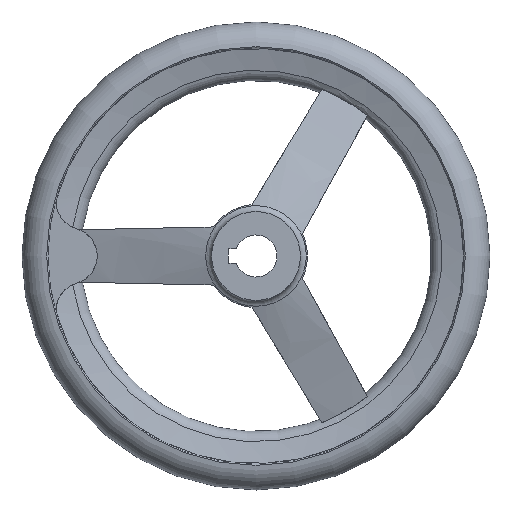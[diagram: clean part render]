
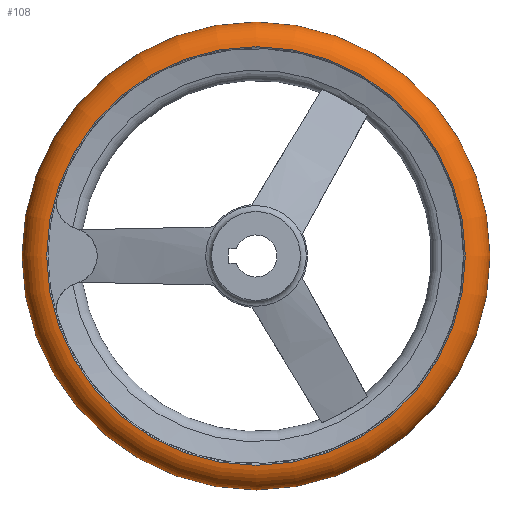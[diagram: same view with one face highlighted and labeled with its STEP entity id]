
A CAD part, left-side view. The second image highlights one B-rep face of the part: STEP entity #108.
In plain terms, the highlighted toroidal (fillet/blend) face has major radius 88.99 mm and minor radius 11.01 mm.
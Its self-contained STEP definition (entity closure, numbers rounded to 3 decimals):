
#108 = ADVANCED_FACE( '', ( #202, #203, #204 ), #205, .T. );
#202 = FACE_BOUND( '', #314, .T. );
#203 = FACE_OUTER_BOUND( '', #315, .T. );
#204 = FACE_OUTER_BOUND( '', #316, .T. );
#205 = TOROIDAL_SURFACE( '', #317, 88.99, 11.01 );
#314 = VERTEX_LOOP( '', #623 );
#315 = EDGE_LOOP( '', ( #624 ) );
#316 = EDGE_LOOP( '', ( #625 ) );
#317 = AXIS2_PLACEMENT_3D( '', #626, #627, #628 );
#623 = VERTEX_POINT( '', #836 );
#624 = ORIENTED_EDGE( '', *, *, #837, .T. );
#625 = ORIENTED_EDGE( '', *, *, #835, .F. );
#626 = CARTESIAN_POINT( '', ( 34., 0., 0. ) );
#627 = DIRECTION( '', ( -1., 0., 0. ) );
#628 = DIRECTION( '', ( 0., -1., 0. ) );
#835 = EDGE_CURVE( '', #1035, #1035, #1036, .T. );
#836 = CARTESIAN_POINT( '', ( 34., -100., 0. ) );
#837 = EDGE_CURVE( '', #1037, #1037, #1038, .T. );
#1035 = VERTEX_POINT( '', #1727 );
#1036 = CIRCLE( '', #1728, 89.458 );
#1037 = VERTEX_POINT( '', #1729 );
#1038 = CIRCLE( '', #1730, 89.458 );
#1727 = CARTESIAN_POINT( '', ( 23., -89.458, 0. ) );
#1728 = AXIS2_PLACEMENT_3D( '', #1921, #1922, #1923 );
#1729 = CARTESIAN_POINT( '', ( 45., -89.458, 0. ) );
#1730 = AXIS2_PLACEMENT_3D( '', #1924, #1925, #1926 );
#1921 = CARTESIAN_POINT( '', ( 23., 0., 0. ) );
#1922 = DIRECTION( '', ( -1., 0., 0. ) );
#1923 = DIRECTION( '', ( 0., -1., 0. ) );
#1924 = CARTESIAN_POINT( '', ( 45., 0., 0. ) );
#1925 = DIRECTION( '', ( -1., 0., 0. ) );
#1926 = DIRECTION( '', ( 0., -1., 0. ) );
